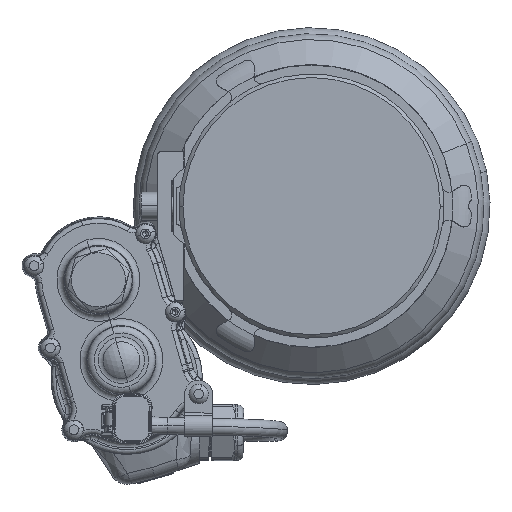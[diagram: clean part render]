
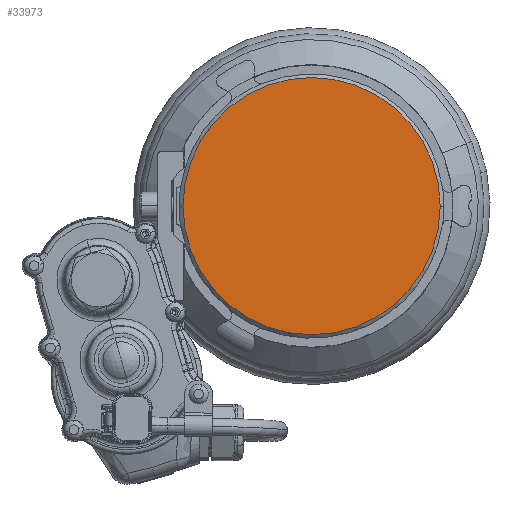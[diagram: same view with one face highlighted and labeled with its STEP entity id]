
A CAD part, left-side view. The second image highlights one B-rep face of the part: STEP entity #33973.
In plain terms, the highlighted planar face has unit normal (-1, 0, 0).
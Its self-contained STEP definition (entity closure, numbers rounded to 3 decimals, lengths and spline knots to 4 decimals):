
#1446 = ORIENTED_EDGE ( 'NONE', *, *, #19020, .T. ) ;
#2119 = CARTESIAN_POINT ( 'NONE',  ( -1.9625, 0., 0. ) ) ;
#4024 = ORIENTED_EDGE ( 'NONE', *, *, #58837, .T. ) ;
#6453 = AXIS2_PLACEMENT_3D ( 'NONE', #19462, #13492, #13138 ) ;
#10371 = DIRECTION ( 'NONE',  ( 0., -1., 0. ) ) ;
#12675 = CARTESIAN_POINT ( 'NONE',  ( -1.9625, -1.7345, 0. ) ) ;
#13138 = DIRECTION ( 'NONE',  ( 0., 0., 1. ) ) ;
#13492 = DIRECTION ( 'NONE',  ( 1., 0., 0. ) ) ;
#16946 = CARTESIAN_POINT ( 'NONE',  ( -1.9625, 1.7345, 0. ) ) ;
#19020 = EDGE_CURVE ( 'Defeatured_1_1703+Defeatured_1_1739+Defeatured_1_1739+Defeatured_1_1739', #97619, #58351, #35379, .T. ) ;
#19462 = CARTESIAN_POINT ( 'NONE',  ( -1.9625, 1.9079, -1.9079 ) ) ;
#20502 = PLANE ( 'NONE',  #6453 ) ;
#30170 = DIRECTION ( 'NONE',  ( 0., -1., 0. ) ) ;
#30271 = DIRECTION ( 'NONE',  ( -1., 0., 0. ) ) ;
#30305 = CARTESIAN_POINT ( 'NONE',  ( -1.9625, 0., 0. ) ) ;
#33973 = ADVANCED_FACE ( 'Defeatured_1_1703', ( #80986 ), #20502, .F. ) ;
#35379 = CIRCLE ( 'NONE', #51762, 1.7345 ) ;
#37095 = AXIS2_PLACEMENT_3D ( 'NONE', #2119, #59368, #10371 ) ;
#51762 = AXIS2_PLACEMENT_3D ( 'NONE', #30305, #30271, #30170 ) ;
#58351 = VERTEX_POINT ( 'NONE', #16946 ) ;
#58837 = EDGE_CURVE ( 'Defeatured_1_1703+Defeatured_1_1739+Defeatured_1_1739+Defeatured_1_1739', #58351, #97619, #85485, .T. ) ;
#59368 = DIRECTION ( 'NONE',  ( -1., 0., 0. ) ) ;
#59713 = EDGE_LOOP ( 'NONE', ( #1446, #4024 ) ) ;
#80986 = FACE_OUTER_BOUND ( 'NONE', #59713, .T. ) ;
#85485 = CIRCLE ( 'NONE', #37095, 1.7345 ) ;
#97619 = VERTEX_POINT ( 'NONE', #12675 ) ;
